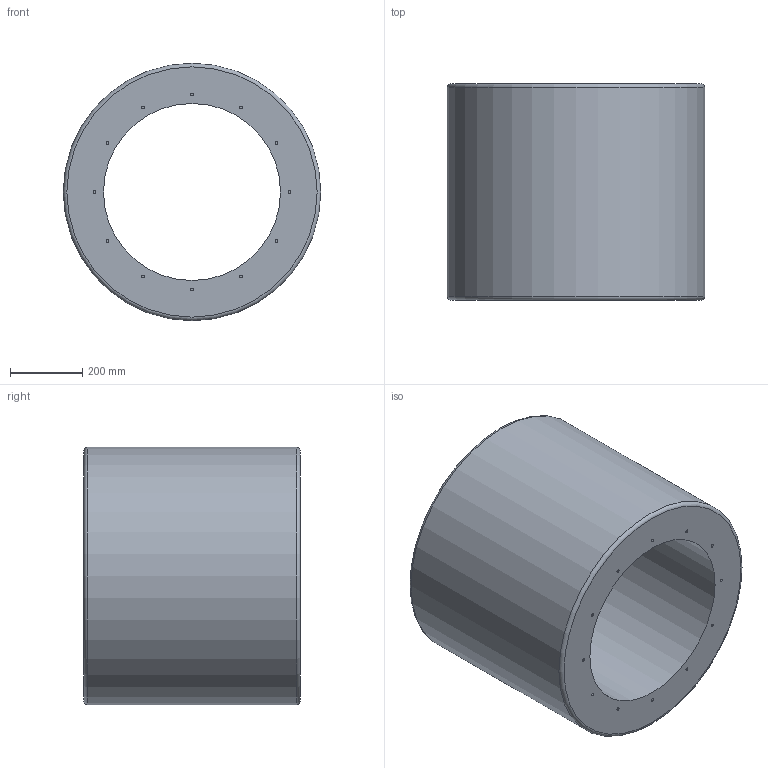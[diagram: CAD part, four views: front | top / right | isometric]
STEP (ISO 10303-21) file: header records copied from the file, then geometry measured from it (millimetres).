
FILE_DESCRIPTION(/* description */ (''),/* implementation_level */ '2;1');
FILE_NAME(/* name */ 'Z:\Output\RSD 500-600-08755-002.stp',/* time_stamp */ '2017-06-15T22:48:01+02:00',/* author */ ('Engineering1'),/* organization */ (''),/* preprocessor_version */ 'ST-DEVELOPER v16.5',/* originating_system */ 'Autodesk Inventor 2017',/* authorisation */ '');
FILE_SCHEMA (('AUTOMOTIVE_DESIGN { 1 0 10303 214 3 1 1 }'));
Length unit declared in the file: millimetre
Products named in the file (1): RSD-1
Bounding box: 714 x 600 x 714 mm (x, y, z)
Volume: 126521224.6 mm3; surface area: 2680156 mm2
Topology: 1 solids, 1 shells, 54 faces, 82 edges, 54 vertices
Faces by surface type: cylinder 26, plane 26, torus 2
Full cylindrical faces by diameter (mm): 8 x24, 491 x1, 714 x1
Entity records: 1126 total; most frequent: DIRECTION 218, CARTESIAN_POINT 163, AXIS2_PLACEMENT_3D 109, EDGE_LOOP 108, ORIENTED_EDGE 108, FACE_BOUND 54, FACE_OUTER_BOUND 54, CIRCLE 54
